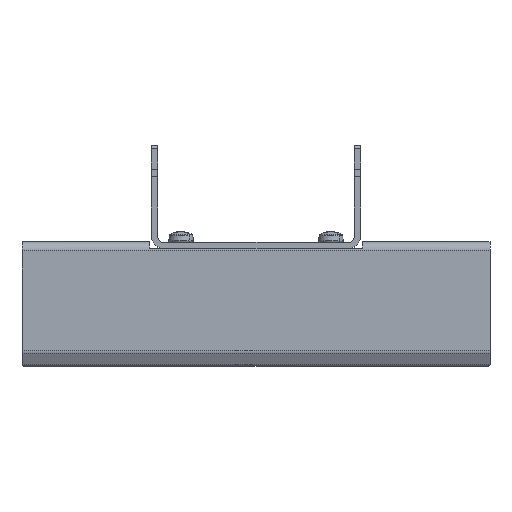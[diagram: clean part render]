
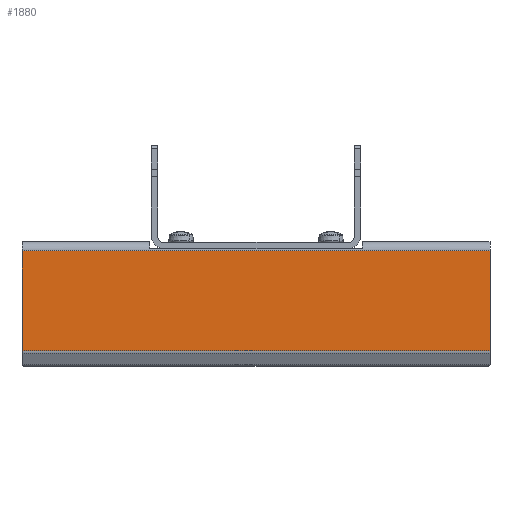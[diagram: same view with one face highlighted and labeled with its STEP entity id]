
A CAD part, top view. The second image highlights one B-rep face of the part: STEP entity #1880.
In plain terms, the highlighted planar face has unit normal (0, 0, 1).
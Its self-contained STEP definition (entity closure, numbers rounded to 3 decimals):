
#1880 = ADVANCED_FACE ( 'NONE', ( #3604 ), #3594, .F. ) ;
#1881 = ORIENTED_EDGE ( 'NONE', *, *, #1914, .T. ) ;
#1882 = ORIENTED_EDGE ( 'NONE', *, *, #1883, .T. ) ;
#1883 = EDGE_CURVE ( 'NONE', #1912, #1897, #3541, .T. ) ;
#1894 = EDGE_LOOP ( 'NONE', ( #1881, #1882, #1898, #1901 ) ) ;
#1897 = VERTEX_POINT ( 'NONE', #3544 ) ;
#1898 = ORIENTED_EDGE ( 'NONE', *, *, #1899, .T. ) ;
#1899 = EDGE_CURVE ( 'NONE', #1897, #1900, #3545, .T. ) ;
#1900 = VERTEX_POINT ( 'NONE', #3631 ) ;
#1901 = ORIENTED_EDGE ( 'NONE', *, *, #1902, .F. ) ;
#1902 = EDGE_CURVE ( 'NONE', #1915, #1900, #3630, .T. ) ;
#1912 = VERTEX_POINT ( 'NONE', #3682 ) ;
#1914 = EDGE_CURVE ( 'NONE', #1915, #1912, #3681, .T. ) ;
#1915 = VERTEX_POINT ( 'NONE', #3677 ) ;
#3538 = DIRECTION ( 'NONE',  ( 0., -1., 0. ) ) ;
#3539 = VECTOR ( 'NONE', #3538, 1000. ) ;
#3540 = CARTESIAN_POINT ( 'NONE',  ( -75., -2.705, 3. ) ) ;
#3541 = LINE ( 'NONE', #3540, #3539 ) ;
#3542 = DIRECTION ( 'NONE',  ( 0., 1., 0. ) ) ;
#3543 = DIRECTION ( 'NONE',  ( 0., 0., -1. ) ) ;
#3544 = CARTESIAN_POINT ( 'NONE',  ( -75., -34.705, 3. ) ) ;
#3545 = LINE ( 'NONE', #3634, #3633 ) ;
#3592 = CARTESIAN_POINT ( 'NONE',  ( 75., -2.705, 3. ) ) ;
#3593 = AXIS2_PLACEMENT_3D ( 'NONE', #3592, #3543, #3542 ) ;
#3594 = PLANE ( 'NONE',  #3593 ) ;
#3604 = FACE_OUTER_BOUND ( 'NONE', #1894, .T. ) ;
#3627 = DIRECTION ( 'NONE',  ( 0., -1., 0. ) ) ;
#3628 = VECTOR ( 'NONE', #3627, 1000. ) ;
#3629 = CARTESIAN_POINT ( 'NONE',  ( 75., -2.705, 3. ) ) ;
#3630 = LINE ( 'NONE', #3629, #3628 ) ;
#3631 = CARTESIAN_POINT ( 'NONE',  ( 75., -34.705, 3. ) ) ;
#3632 = DIRECTION ( 'NONE',  ( 1., 0., 0. ) ) ;
#3633 = VECTOR ( 'NONE', #3632, 1000. ) ;
#3634 = CARTESIAN_POINT ( 'NONE',  ( 75., -34.705, 3. ) ) ;
#3677 = CARTESIAN_POINT ( 'NONE',  ( 75., -2.705, 3. ) ) ;
#3678 = DIRECTION ( 'NONE',  ( -1., 0., 0. ) ) ;
#3679 = VECTOR ( 'NONE', #3678, 1000. ) ;
#3680 = CARTESIAN_POINT ( 'NONE',  ( 75., -2.705, 3. ) ) ;
#3681 = LINE ( 'NONE', #3680, #3679 ) ;
#3682 = CARTESIAN_POINT ( 'NONE',  ( -75., -2.705, 3. ) ) ;
